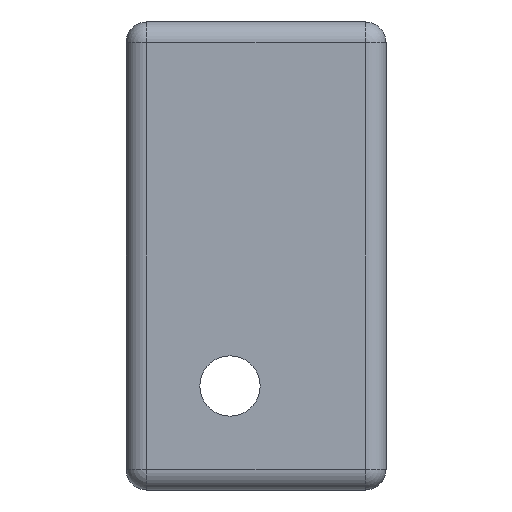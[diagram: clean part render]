
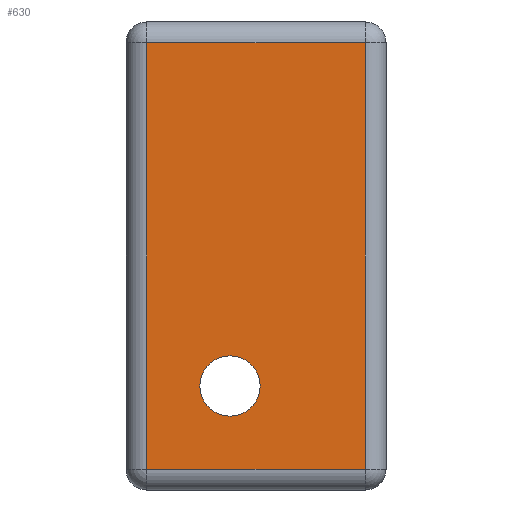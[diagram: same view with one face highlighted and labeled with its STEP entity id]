
A CAD part, front view. The second image highlights one B-rep face of the part: STEP entity #630.
In plain terms, the highlighted planar face has unit normal (0, -1, 0).
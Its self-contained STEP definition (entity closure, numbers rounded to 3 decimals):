
#2 = DIRECTION ( 'NONE',  ( 0., 0., 1. ) ) ;
#3 = CARTESIAN_POINT ( 'NONE',  ( -2., 0., 0. ) ) ;
#59 = AXIS2_PLACEMENT_3D ( 'NONE', #302, #308, #309 ) ;
#86 = AXIS2_PLACEMENT_3D ( 'NONE', #888, #889, #890 ) ;
#119 = AXIS2_PLACEMENT_3D ( 'NONE', #1157, #1158, #1159 ) ;
#158 = EDGE_CURVE ( 'NONE', #1522, #1515, #1485, .T. ) ;
#160 = EDGE_CURVE ( 'NONE', #1523, #1517, #1481, .T. ) ;
#183 = EDGE_CURVE ( 'NONE', #1517, #1522, #1450, .T. ) ;
#207 = EDGE_CURVE ( 'NONE', #1422, #1549, #1409, .T. ) ;
#272 = EDGE_CURVE ( 'NONE', #1515, #1523, #1737, .T. ) ;
#275 = EDGE_CURVE ( 'NONE', #1549, #1422, #1661, .T. ) ;
#302 = CARTESIAN_POINT ( 'NONE',  ( -25., 0., 0. ) ) ;
#303 = PLANE ( 'NONE',  #59 ) ;
#308 = DIRECTION ( 'NONE',  ( 0., -1., 0. ) ) ;
#309 = DIRECTION ( 'NONE',  ( 0., 0., -1. ) ) ;
#630 = ADVANCED_FACE ( 'NONE', ( #1594, #1722 ), #303, .T. ) ;
#679 = CARTESIAN_POINT ( 'NONE',  ( -15., 0., -37.9 ) ) ;
#699 = CARTESIAN_POINT ( 'NONE',  ( -23., 0., -2. ) ) ;
#701 = CARTESIAN_POINT ( 'NONE',  ( -2., 0., -43. ) ) ;
#706 = CARTESIAN_POINT ( 'NONE',  ( -2., 0., -2. ) ) ;
#707 = CARTESIAN_POINT ( 'NONE',  ( -23., 0., -43. ) ) ;
#731 = CARTESIAN_POINT ( 'NONE',  ( -15., 0., -32.1 ) ) ;
#753 = CARTESIAN_POINT ( 'NONE',  ( -25., 0., -2. ) ) ;
#758 = DIRECTION ( 'NONE',  ( -1., 0., 0. ) ) ;
#760 = DIRECTION ( 'NONE',  ( 1., 0., 0. ) ) ;
#839 = CARTESIAN_POINT ( 'NONE',  ( -25., 0., -43. ) ) ;
#880 = CARTESIAN_POINT ( 'NONE',  ( -23., 0., 0. ) ) ;
#881 = DIRECTION ( 'NONE',  ( 0., 0., -1. ) ) ;
#888 = CARTESIAN_POINT ( 'NONE',  ( -15., 0., -35. ) ) ;
#889 = DIRECTION ( 'NONE',  ( 0., 1., 0. ) ) ;
#890 = DIRECTION ( 'NONE',  ( 0., 0., 1. ) ) ;
#1157 = CARTESIAN_POINT ( 'NONE',  ( -15., 0., -35. ) ) ;
#1158 = DIRECTION ( 'NONE',  ( 0., 1., 0. ) ) ;
#1159 = DIRECTION ( 'NONE',  ( 0., 0., 1. ) ) ;
#1269 = ORIENTED_EDGE ( 'NONE', *, *, #275, .T. ) ;
#1271 = ORIENTED_EDGE ( 'NONE', *, *, #207, .T. ) ;
#1272 = ORIENTED_EDGE ( 'NONE', *, *, #272, .T. ) ;
#1273 = ORIENTED_EDGE ( 'NONE', *, *, #160, .T. ) ;
#1274 = ORIENTED_EDGE ( 'NONE', *, *, #183, .T. ) ;
#1275 = ORIENTED_EDGE ( 'NONE', *, *, #158, .T. ) ;
#1331 = EDGE_LOOP ( 'NONE', ( #1272, #1273, #1274, #1275 ) ) ;
#1335 = EDGE_LOOP ( 'NONE', ( #1269, #1271 ) ) ;
#1409 = CIRCLE ( 'NONE', #119, 2.9 ) ;
#1422 = VERTEX_POINT ( 'NONE', #679 ) ;
#1446 = VECTOR ( 'NONE', #2, 1000. ) ;
#1450 = LINE ( 'NONE', #3, #1446 ) ;
#1471 = VECTOR ( 'NONE', #760, 1000. ) ;
#1479 = VECTOR ( 'NONE', #758, 1000. ) ;
#1481 = LINE ( 'NONE', #839, #1471 ) ;
#1485 = LINE ( 'NONE', #753, #1479 ) ;
#1515 = VERTEX_POINT ( 'NONE', #699 ) ;
#1517 = VERTEX_POINT ( 'NONE', #701 ) ;
#1522 = VERTEX_POINT ( 'NONE', #706 ) ;
#1523 = VERTEX_POINT ( 'NONE', #707 ) ;
#1549 = VERTEX_POINT ( 'NONE', #731 ) ;
#1594 = FACE_BOUND ( 'NONE', #1335, .T. ) ;
#1628 = VECTOR ( 'NONE', #881, 1000. ) ;
#1661 = CIRCLE ( 'NONE', #86, 2.9 ) ;
#1722 = FACE_OUTER_BOUND ( 'NONE', #1331, .T. ) ;
#1737 = LINE ( 'NONE', #880, #1628 ) ;
